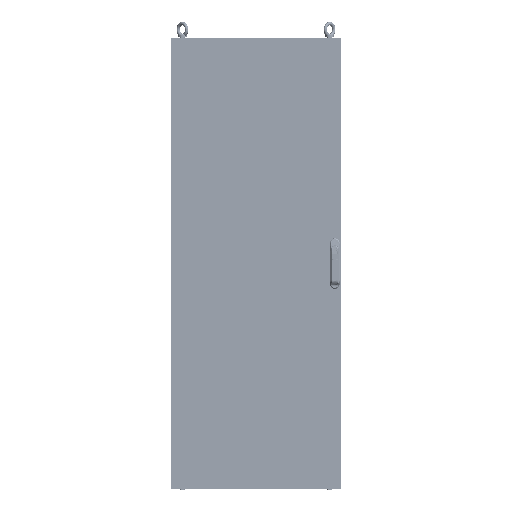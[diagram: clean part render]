
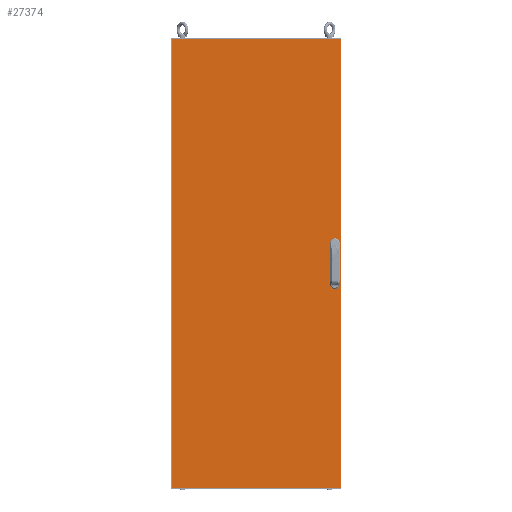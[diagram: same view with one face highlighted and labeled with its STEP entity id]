
A CAD part, front view. The second image highlights one B-rep face of the part: STEP entity #27374.
In plain terms, the highlighted planar face has unit normal (0, -1, 0).
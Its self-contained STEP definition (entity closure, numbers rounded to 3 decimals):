
#7218=ORIENTED_EDGE('',*,*,#12130,.T.);
#7219=ORIENTED_EDGE('',*,*,#12131,.T.);
#7220=ORIENTED_EDGE('',*,*,#12132,.T.);
#7221=ORIENTED_EDGE('',*,*,#12133,.T.);
#7222=ORIENTED_EDGE('',*,*,#12134,.T.);
#7223=ORIENTED_EDGE('',*,*,#12135,.T.);
#7224=ORIENTED_EDGE('',*,*,#12136,.T.);
#7225=ORIENTED_EDGE('',*,*,#12137,.T.);
#7226=ORIENTED_EDGE('',*,*,#12124,.F.);
#7227=ORIENTED_EDGE('',*,*,#12127,.F.);
#7228=ORIENTED_EDGE('',*,*,#12121,.F.);
#7229=ORIENTED_EDGE('',*,*,#12129,.F.);
#12121=EDGE_CURVE('',#15009,#15007,#17695,.T.);
#12124=EDGE_CURVE('',#15012,#15013,#17698,.T.);
#12127=EDGE_CURVE('',#15007,#15012,#17701,.T.);
#12129=EDGE_CURVE('',#15013,#15009,#17703,.T.);
#12130=EDGE_CURVE('',#15014,#15015,#17704,.T.);
#12131=EDGE_CURVE('',#15015,#15016,#17705,.T.);
#12132=EDGE_CURVE('',#15016,#15017,#17706,.T.);
#12133=EDGE_CURVE('',#15017,#15014,#17707,.T.);
#12134=EDGE_CURVE('',#15018,#15019,#17708,.T.);
#12135=EDGE_CURVE('',#15019,#15020,#17709,.T.);
#12136=EDGE_CURVE('',#15020,#15021,#17710,.T.);
#12137=EDGE_CURVE('',#15021,#15018,#17711,.T.);
#15007=VERTEX_POINT('',#46459);
#15009=VERTEX_POINT('',#46463);
#15012=VERTEX_POINT('',#46470);
#15013=VERTEX_POINT('',#46472);
#15014=VERTEX_POINT('',#46483);
#15015=VERTEX_POINT('',#46484);
#15016=VERTEX_POINT('',#46486);
#15017=VERTEX_POINT('',#46488);
#15018=VERTEX_POINT('',#46491);
#15019=VERTEX_POINT('',#46492);
#15020=VERTEX_POINT('',#46494);
#15021=VERTEX_POINT('',#46496);
#17695=LINE('',#46464,#20242);
#17698=LINE('',#46471,#20245);
#17701=LINE('',#46476,#20248);
#17703=LINE('',#46479,#20250);
#17704=LINE('',#46482,#20251);
#17705=LINE('',#46485,#20252);
#17706=LINE('',#46487,#20253);
#17707=LINE('',#46489,#20254);
#17708=LINE('',#46490,#20255);
#17709=LINE('',#46493,#20256);
#17710=LINE('',#46495,#20257);
#17711=LINE('',#46497,#20258);
#20242=VECTOR('',#38418,1000.);
#20245=VECTOR('',#38423,1000.);
#20248=VECTOR('',#38428,1000.);
#20250=VECTOR('',#38432,1000.);
#20251=VECTOR('',#38437,1000.);
#20252=VECTOR('',#38438,1000.);
#20253=VECTOR('',#38439,1000.);
#20254=VECTOR('',#38440,1000.);
#20255=VECTOR('',#38441,1000.);
#20256=VECTOR('',#38442,1000.);
#20257=VECTOR('',#38443,1000.);
#20258=VECTOR('',#38444,1000.);
#22378=EDGE_LOOP('',(#7218,#7219,#7220,#7221));
#22379=EDGE_LOOP('',(#7222,#7223,#7224,#7225));
#22380=EDGE_LOOP('',(#7226,#7227,#7228,#7229));
#24591=FACE_BOUND('',#22378,.T.);
#24592=FACE_BOUND('',#22379,.T.);
#24593=FACE_BOUND('',#22380,.T.);
#26109=PLANE('',#32436);
#27374=ADVANCED_FACE('',(#24591,#24592,#24593),#26109,.F.);
#32436=AXIS2_PLACEMENT_3D('',#46481,#38435,#38436);
#38418=DIRECTION('',(0.,0.,-1.));
#38423=DIRECTION('',(0.,0.,1.));
#38428=DIRECTION('',(-1.,0.,0.));
#38432=DIRECTION('',(1.,0.,0.));
#38435=DIRECTION('',(0.,1.,0.));
#38436=DIRECTION('',(-1.,0.,0.));
#38437=DIRECTION('',(-1.,0.,0.));
#38438=DIRECTION('',(0.,0.,1.));
#38439=DIRECTION('',(1.,0.,0.));
#38440=DIRECTION('',(0.,0.,-1.));
#38441=DIRECTION('',(-1.,0.,0.));
#38442=DIRECTION('',(0.,0.,1.));
#38443=DIRECTION('',(1.,0.,0.));
#38444=DIRECTION('',(0.,0.,-1.));
#46459=CARTESIAN_POINT('',(299.,-13.,-795.));
#46463=CARTESIAN_POINT('',(299.,-13.,795.));
#46464=CARTESIAN_POINT('',(299.,-13.,795.));
#46470=CARTESIAN_POINT('',(-299.,-13.,-795.));
#46471=CARTESIAN_POINT('',(-299.,-13.,-795.));
#46472=CARTESIAN_POINT('',(-299.,-13.,795.));
#46476=CARTESIAN_POINT('',(299.,-13.,-795.));
#46479=CARTESIAN_POINT('',(-299.,-13.,795.));
#46481=CARTESIAN_POINT('',(0.,-13.,0.));
#46482=CARTESIAN_POINT('',(290.5,-13.,25.));
#46483=CARTESIAN_POINT('',(290.5,-13.,25.));
#46484=CARTESIAN_POINT('',(265.5,-13.,25.));
#46485=CARTESIAN_POINT('',(265.5,-13.,25.));
#46486=CARTESIAN_POINT('',(265.5,-13.,75.));
#46487=CARTESIAN_POINT('',(265.5,-13.,75.));
#46488=CARTESIAN_POINT('',(290.5,-13.,75.));
#46489=CARTESIAN_POINT('',(290.5,-13.,75.));
#46490=CARTESIAN_POINT('',(290.5,-13.,-75.));
#46491=CARTESIAN_POINT('',(290.5,-13.,-75.));
#46492=CARTESIAN_POINT('',(265.5,-13.,-75.));
#46493=CARTESIAN_POINT('',(265.5,-13.,-75.));
#46494=CARTESIAN_POINT('',(265.5,-13.,-25.));
#46495=CARTESIAN_POINT('',(265.5,-13.,-25.));
#46496=CARTESIAN_POINT('',(290.5,-13.,-25.));
#46497=CARTESIAN_POINT('',(290.5,-13.,-25.));
